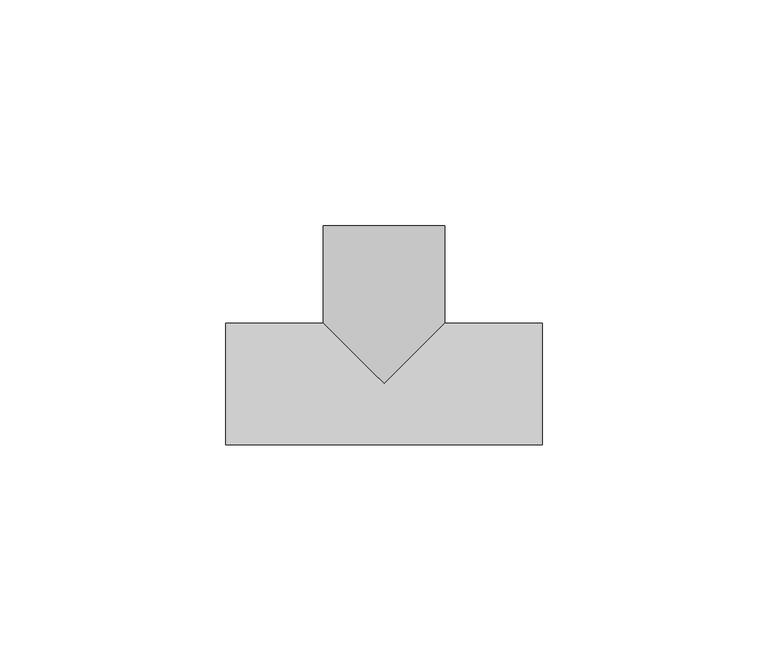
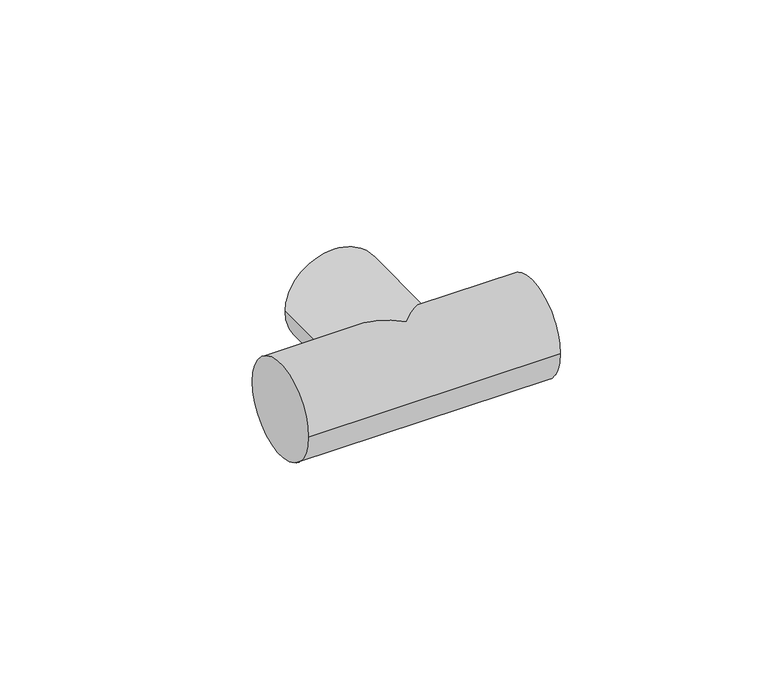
"""IFC4 building model written with IfcOpenShell, lengths in millimetres: cable carrier fitting geometry, Тройник_соед._для_трубы : Тройник соед. для трубы 25 мм (25шт) серый."""

from ifc_helpers import new_model, si_unit, frame, origin, place, context, project, spatial, circle_curve, ellipse_curve, source, transform, mapped, element, save
from ifc_brep_helpers import plane_surface, cylinder_surface, advanced_brep


def cable_carrier_fitting_43ac811c(model_context):
    return source(origin(), model_context, "Body", "AdvancedBrep", [
        advanced_brep(
        [(35.0, -13.5, 0.0), (35.0, 13.5, 0.0), (-35.0, -13.5, 0.0), (-35.0, 13.5, 0.0), (-13.5, 13.5, 0.0), (0.0, 0.0, -13.5), (13.5, 13.5, 0.0), (0.0, 0.0, 13.5), (-13.5, 35.0, 0.0), (13.5, 35.0, 0.0)],
        [
            (0, 1, circle_curve(frame((35.0, 0.0, 0.0), z_axis=(1.0, 0.0, 0.0), x_axis=(0.0, 1.0, 0.0)), 13.5)),
            (1, 0, circle_curve(frame((35.0, 0.0, 0.0), z_axis=(1.0, 0.0, 0.0), x_axis=(0.0, 1.0, 0.0)), 13.5)),
            (2, 3, circle_curve(frame((-35.0, 0.0, 0.0), z_axis=(-1.0, 0.0, 0.0), x_axis=(0.0, 1.0, 0.0)), 13.5)),
            (3, 2, circle_curve(frame((-35.0, 0.0, 0.0), z_axis=(-1.0, 0.0, 0.0), x_axis=(0.0, 1.0, 0.0)), 13.5)),
            (0, 2),
            (3, 4),
            (4, 5, ellipse_curve(frame((0.0, 0.0, 0.0), z_axis=(-0.7071067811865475, -0.7071067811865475, 0.0), x_axis=(0.7071067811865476, -0.7071067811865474, 0.0)), 19.0918831, 13.5)),
            (5, 6, ellipse_curve(frame((0.0, 0.0, 0.0), z_axis=(0.7071067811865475, -0.7071067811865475, 0.0), x_axis=(0.7071067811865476, 0.7071067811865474, 0.0)), 19.0918831, 13.5)),
            (6, 1),
            (6, 7, ellipse_curve(frame((0.0, 0.0, 0.0), z_axis=(0.7071067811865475, -0.7071067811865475, 0.0), x_axis=(0.7071067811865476, 0.7071067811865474, 0.0)), 19.0918831, 13.5)),
            (7, 4, ellipse_curve(frame((0.0, 0.0, 0.0), z_axis=(-0.7071067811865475, -0.7071067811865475, 0.0), x_axis=(0.7071067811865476, -0.7071067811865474, 0.0)), 19.0918831, 13.5)),
            (8, 9, circle_curve(frame((0.0, 35.0, 0.0), z_axis=(0.0, 1.0, 0.0), x_axis=(0.9999999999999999, 0.0, 0.0)), 13.5)),
            (9, 8, circle_curve(frame((0.0, 35.0, 0.0), z_axis=(0.0, 1.0, 0.0), x_axis=(0.9999999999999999, 0.0, 0.0)), 13.5)),
            (9, 6),
            (4, 8),
        ],
        [
            plane_surface(frame((35.0, 13.5, 0.0), z_axis=(1.0, 0.0, 0.0), x_axis=(0.0, 0.0, 1.0))),
            plane_surface(frame((-35.0, 13.5, 0.0), z_axis=(-1.0, 0.0, 0.0), x_axis=(0.0, 0.0, -1.0))),
            cylinder_surface(frame((-35.0, 0.0, 0.0), z_axis=(0.9999999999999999, 0.0, 0.0), x_axis=(0.0, 1.0, 0.0)), 13.5),
            plane_surface(frame((13.5, 35.0, 0.0), z_axis=(0.0, 1.0, 0.0), x_axis=(0.0, 0.0, -1.0))),
            cylinder_surface(frame((0.0, 35.0, 0.0), z_axis=(0.0, -0.9999999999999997, 0.0), x_axis=(0.9999999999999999, 0.0, 0.0)), 13.5),
        ],
        [
            (0, [[1, 2]]),
            (1, [[3, 4]]),
            (2, [[-1, 5, -4, 6, 7, 8, 9]]),
            (2, [[-2, -9, 10, 11, -6, -3, -5]]),
            (3, [[12, 13]]),
            (4, [[-13, 14, -8, -7, 15]]),
            (4, [[-12, -15, -11, -10, -14]]),
        ],
    ),
    ])


if __name__ == "__main__":
    model = new_model("IFC4")
    model_context = context("Model", 3, world=origin())
    ifc_project = project(units=[si_unit("LENGTHUNIT", "METRE", prefix="MILLI")], contexts=[model_context])
    site = spatial("IfcSite", under=ifc_project)
    building = spatial("IfcBuilding", under=site)
    placement = place(None, origin())
    cable_carrier_fitting_shape = cable_carrier_fitting_43ac811c(model_context)
    element("IfcCableCarrierFitting", 1, ObjectType="Тройник_соед._для_трубы : Тройник соед. для трубы 25 мм (25шт) серый", at=placement, inside=building, context=model_context, shape_type="MappedRepresentation", body=[
        mapped(cable_carrier_fitting_shape, transform((0.0, 0.0, 0.0), x_axis=(1.0, 0.0, 0.0), y_axis=(0.0, 1.0, 0.0), z_axis=(0.0, 0.0, 1.0))),
    ])
    save(model, "model.ifc")
